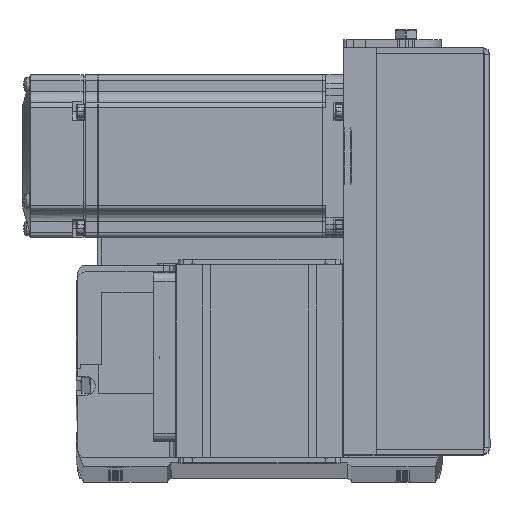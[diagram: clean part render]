
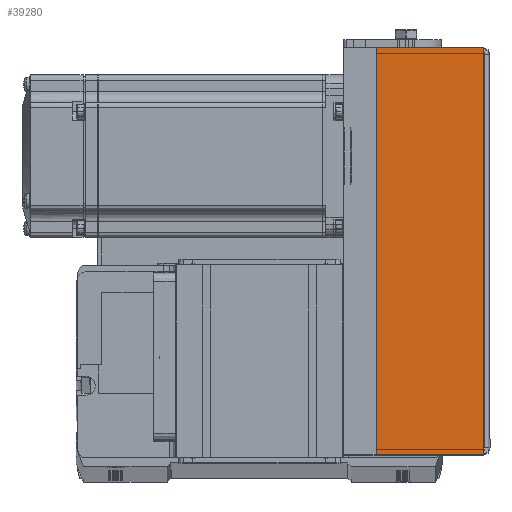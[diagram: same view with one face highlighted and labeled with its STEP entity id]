
A CAD part, top view. The second image highlights one B-rep face of the part: STEP entity #39280.
In plain terms, the highlighted planar face has unit normal (0, 0, 1) as drawn and (0, -1, 0) by its records, which use the part's own axes.
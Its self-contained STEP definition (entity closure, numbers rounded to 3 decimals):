
#402 = EDGE_CURVE ( 'NONE', #10962, #3354, #8415, .T. ) ;
#596 = EDGE_CURVE ( 'NONE', #20515, #23752, #6152, .T. ) ;
#1640 = LINE ( 'NONE', #26597, #4813 ) ;
#1916 = ORIENTED_EDGE ( 'NONE', *, *, #596, .T. ) ;
#2564 = CARTESIAN_POINT ( 'NONE',  ( 0., -36., 12. ) ) ;
#3352 = CARTESIAN_POINT ( 'NONE',  ( -75., -36., 12. ) ) ;
#3354 = VERTEX_POINT ( 'NONE', #31496 ) ;
#4002 = PLANE ( 'NONE',  #16582 ) ;
#4813 = VECTOR ( 'NONE', #11090, 1000. ) ;
#6152 = LINE ( 'NONE', #16207, #37635 ) ;
#6551 = CARTESIAN_POINT ( 'NONE',  ( 75., -36., 51.5 ) ) ;
#7219 = EDGE_LOOP ( 'NONE', ( #24327, #1916, #15192, #27778 ) ) ;
#8415 = LINE ( 'NONE', #24518, #40292 ) ;
#8729 = DIRECTION ( 'NONE',  ( 1., 0., 0. ) ) ;
#10567 = DIRECTION ( 'NONE',  ( 0., 0., -1. ) ) ;
#10962 = VERTEX_POINT ( 'NONE', #6551 ) ;
#11090 = DIRECTION ( 'NONE',  ( 1., 0., 0. ) ) ;
#13112 = DIRECTION ( 'NONE',  ( 0., 0., -1. ) ) ;
#15192 = ORIENTED_EDGE ( 'NONE', *, *, #26293, .T. ) ;
#16207 = CARTESIAN_POINT ( 'NONE',  ( -75., -36., 51.5 ) ) ;
#16530 = CARTESIAN_POINT ( 'NONE',  ( 0., -36., 52. ) ) ;
#16582 = AXIS2_PLACEMENT_3D ( 'NONE', #16530, #29153, #10567 ) ;
#20515 = VERTEX_POINT ( 'NONE', #33421 ) ;
#22134 = LINE ( 'NONE', #2564, #27782 ) ;
#23752 = VERTEX_POINT ( 'NONE', #3352 ) ;
#24327 = ORIENTED_EDGE ( 'NONE', *, *, #39752, .F. ) ;
#24518 = CARTESIAN_POINT ( 'NONE',  ( 75., -36., 51.5 ) ) ;
#25456 = FACE_OUTER_BOUND ( 'NONE', #7219, .T. ) ;
#26293 = EDGE_CURVE ( 'NONE', #23752, #3354, #22134, .T. ) ;
#26597 = CARTESIAN_POINT ( 'NONE',  ( 75., -36., 51.5 ) ) ;
#27778 = ORIENTED_EDGE ( 'NONE', *, *, #402, .F. ) ;
#27782 = VECTOR ( 'NONE', #8729, 1000. ) ;
#29153 = DIRECTION ( 'NONE',  ( 0., 1., 0. ) ) ;
#31496 = CARTESIAN_POINT ( 'NONE',  ( 75., -36., 12. ) ) ;
#33421 = CARTESIAN_POINT ( 'NONE',  ( -75., -36., 51.5 ) ) ;
#37635 = VECTOR ( 'NONE', #13112, 1000. ) ;
#39280 = ADVANCED_FACE ( 'NONE', ( #25456 ), #4002, .F. ) ;
#39752 = EDGE_CURVE ( 'NONE', #20515, #10962, #1640, .T. ) ;
#39852 = DIRECTION ( 'NONE',  ( 0., 0., -1. ) ) ;
#40292 = VECTOR ( 'NONE', #39852, 1000. ) ;
